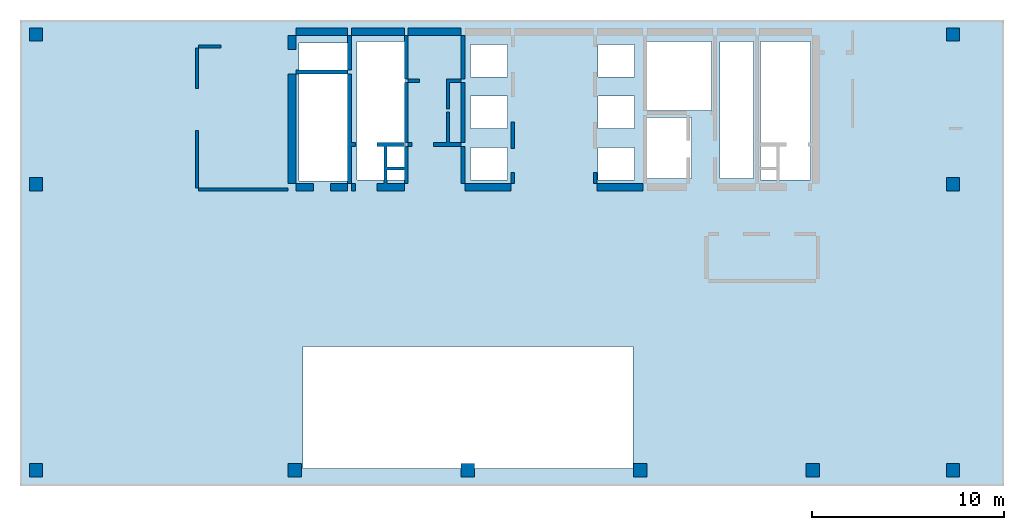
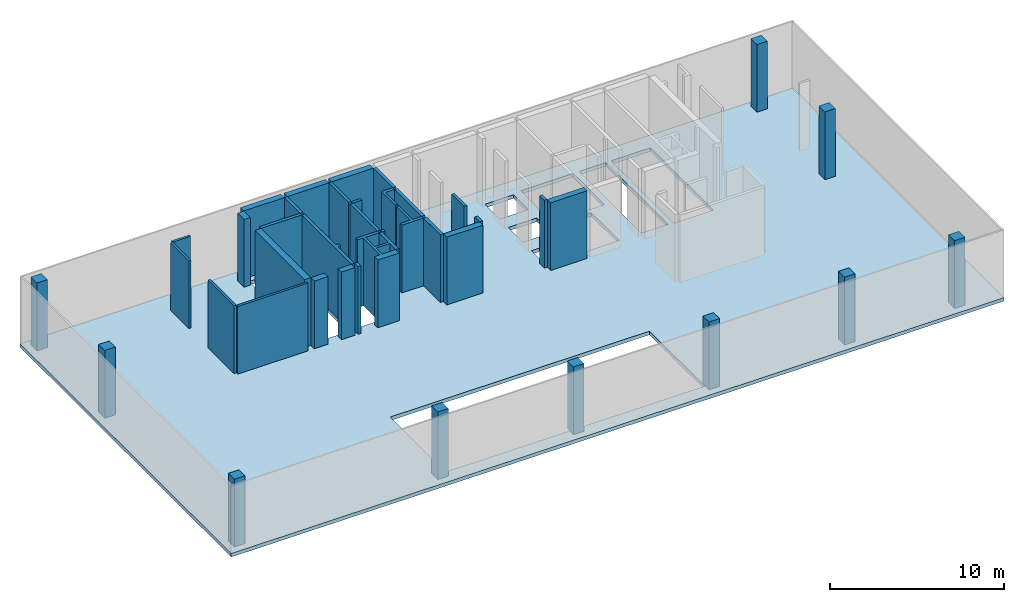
# One storey, part 1 of 3: 30 walls, 10 columns, 1 slab.
"""IFC4 building model written with IfcOpenShell, lengths in millimetres."""

from ifc_helpers import new_model, si_unit, frame, origin, place, context, project, spatial, triangles, element, save


model = new_model("IFC4")

# Units and contexts
model_context = context("Model", 3, precision=0.001, world=origin())
ifc_project = project(units=[si_unit("LENGTHUNIT", "METRE", prefix="MILLI"), si_unit("AREAUNIT", "SQUARE_METRE"), si_unit("VOLUMEUNIT", "CUBIC_METRE")], contexts=[model_context])

# Site, building, storey
site_placement = place(None, origin())
site = spatial("IfcSite", under=ifc_project, at=site_placement, Name="Site", CompositionType="ELEMENT")
building_placement = place(site_placement, origin())
building = spatial("IfcBuilding", under=site, at=building_placement, Name="INNOCEAN", CompositionType="ELEMENT")
storey_placement = place(building_placement, frame((0.0, 0.0, 6000.0)))
storey = spatial("IfcBuildingStorey", under=building, at=storey_placement, Name="F02", CompositionType="ELEMENT", Elevation=6000.0)

# Columns
column_1_placement = place(storey_placement, origin())
element("IfcColumn", 1, at=column_1_placement, inside=storey, Name="F02_Columns_F02_001", context=model_context, shape_type="Tessellation", body=[
    triangles([(40114.8, 2023.7, 0.0), (40114.8, 2722.3, 4750.0), (40114.8, 2722.3, 0.0), (40114.8, 2023.7, 4750.0), (40813.0, 2722.3, 4750.0), (40813.0, 2023.7, 0.0), (40813.0, 2722.3, 0.0), (40813.0, 2023.7, 4750.0)], [[1, 2, 3], [1, 4, 2], [5, 6, 7], [8, 6, 5], [6, 8, 1], [1, 8, 4], [5, 7, 3], [5, 3, 2], [3, 7, 1], [1, 7, 6], [5, 2, 4], [5, 4, 8]], closed=True),
])
column_2_placement = place(storey_placement, origin())
element("IfcColumn", 2, at=column_2_placement, inside=storey, Name="F02_Columns_F02_002", context=model_context, shape_type="Tessellation", body=[
    triangles([(13129.0, 2023.7, 0.0), (13129.0, 2722.3, 4750.0), (13129.0, 2722.3, 0.0), (13129.0, 2023.7, 4750.0), (13827.2, 2722.3, 4750.0), (13827.2, 2023.7, 0.0), (13827.2, 2722.3, 0.0), (13827.2, 2023.7, 4750.0)], [[1, 2, 3], [1, 4, 2], [5, 6, 7], [8, 6, 5], [6, 8, 1], [1, 8, 4], [5, 7, 3], [5, 3, 2], [3, 7, 1], [1, 7, 6], [5, 2, 4], [5, 4, 8]], closed=True),
])
column_3_placement = place(storey_placement, origin())
element("IfcColumn", 3, at=column_3_placement, inside=storey, Name="F02_Columns_F02_003", context=model_context, shape_type="Tessellation", body=[
    triangles([(-363.9, 16922.4, 0.0), (-363.9, 16922.4, 4750.0), (-363.9, 17620.9, 0.0), (-363.9, 17620.9, 4750.0), (334.3, 16922.4, 4750.0), (334.3, 16922.4, 0.0), (334.3, 17620.9, 0.0), (334.3, 17620.9, 4750.0)], [[1, 2, 3], [3, 2, 4], [5, 6, 7], [5, 7, 8], [6, 5, 1], [1, 5, 2], [8, 7, 3], [8, 3, 4], [3, 7, 1], [1, 7, 6], [8, 4, 2], [8, 2, 5]], closed=True),
])
column_4_placement = place(storey_placement, origin())
element("IfcColumn", 4, at=column_4_placement, inside=storey, Name="F02_Columns_F02_004", context=model_context, shape_type="Tessellation", body=[
    triangles([(-363.9, 2023.7, 0.0), (-363.9, 2722.3, 4750.0), (-363.9, 2722.3, 0.0), (-363.9, 2023.7, 4750.0), (334.3, 2722.3, 4750.0), (334.3, 2023.7, 0.0), (334.3, 2722.3, 0.0), (334.3, 2023.7, 4750.0)], [[1, 2, 3], [1, 4, 2], [5, 6, 7], [8, 6, 5], [6, 8, 1], [1, 8, 4], [5, 7, 3], [5, 3, 2], [3, 7, 1], [1, 7, 6], [5, 2, 4], [5, 4, 8]], closed=True),
])
column_5_placement = place(storey_placement, origin())
element("IfcColumn", 5, at=column_5_placement, inside=storey, Name="F02_Columns_F02_005", context=model_context, shape_type="Tessellation", body=[
    triangles([(-363.9, 24721.0, 0.0), (-363.9, 24721.0, 4750.0), (-363.9, 25419.5, 0.0), (-363.9, 25419.5, 4750.0), (334.3, 24721.0, 4750.0), (334.3, 24721.0, 0.0), (334.3, 25419.5, 0.0), (334.3, 25419.5, 4750.0)], [[1, 2, 3], [3, 2, 4], [5, 6, 7], [5, 7, 8], [6, 5, 1], [1, 5, 2], [8, 7, 3], [8, 3, 4], [3, 7, 1], [1, 7, 6], [8, 4, 2], [8, 2, 5]], closed=True),
])
column_6_placement = place(storey_placement, origin())
element("IfcColumn", 6, at=column_6_placement, inside=storey, Name="F02_Columns_F02_006", context=model_context, shape_type="Tessellation", body=[
    triangles([(31128.0, 2023.7, 0.0), (31128.0, 2722.3, 4750.0), (31128.0, 2722.3, 0.0), (31128.0, 2023.7, 4750.0), (31826.2, 2722.3, 4750.0), (31826.2, 2023.7, 0.0), (31826.2, 2722.3, 0.0), (31826.2, 2023.7, 4750.0)], [[1, 2, 3], [1, 4, 2], [5, 6, 7], [8, 6, 5], [6, 8, 1], [1, 8, 4], [5, 7, 3], [5, 3, 2], [3, 7, 1], [1, 7, 6], [5, 2, 4], [5, 4, 8]], closed=True),
])
column_7_placement = place(storey_placement, origin())
element("IfcColumn", 7, at=column_7_placement, inside=storey, Name="F02_Columns_F02_007", context=model_context, shape_type="Tessellation", body=[
    triangles([(22128.5, 2023.7, 0.0), (22128.5, 2722.3, 4750.0), (22128.5, 2722.3, 0.0), (22128.5, 2023.7, 4750.0), (22826.7, 2722.3, 4750.0), (22826.7, 2023.7, 0.0), (22826.7, 2722.3, 0.0), (22826.7, 2023.7, 4750.0)], [[1, 2, 3], [1, 4, 2], [5, 6, 7], [8, 6, 5], [6, 8, 1], [1, 8, 4], [5, 7, 3], [5, 3, 2], [3, 7, 1], [1, 7, 6], [5, 2, 4], [5, 4, 8]], closed=True),
])
column_8_placement = place(storey_placement, origin())
element("IfcColumn", 8, at=column_8_placement, inside=storey, Name="F02_Columns_F02_008", context=model_context, shape_type="Tessellation", body=[
    triangles([(47413.4, 24721.0, 0.0), (47413.4, 24721.0, 4750.0), (47413.4, 25419.5, 0.0), (47413.4, 25419.5, 4750.0), (48111.6, 24721.0, 4750.0), (48111.6, 24721.0, 0.0), (48111.6, 25419.5, 0.0), (48111.6, 25419.5, 4750.0)], [[1, 2, 3], [3, 2, 4], [5, 6, 7], [5, 7, 8], [6, 5, 1], [1, 5, 2], [8, 7, 3], [8, 3, 4], [1, 3, 6], [3, 7, 6], [4, 2, 5], [8, 4, 5]], closed=True),
])
column_9_placement = place(storey_placement, origin())
element("IfcColumn", 9, at=column_9_placement, inside=storey, Name="F02_Columns_F02_009", context=model_context, shape_type="Tessellation", body=[
    triangles([(47413.4, 16922.4, 0.0), (47413.4, 16922.4, 4750.0), (47413.4, 17620.9, 0.0), (47413.4, 17620.9, 4750.0), (48111.6, 16922.4, 4750.0), (48111.6, 16922.4, 0.0), (48111.6, 17620.9, 0.0), (48111.6, 17620.9, 4750.0)], [[1, 2, 3], [3, 2, 4], [5, 6, 7], [5, 7, 8], [6, 5, 1], [1, 5, 2], [8, 7, 3], [8, 3, 4], [1, 3, 6], [3, 7, 6], [4, 2, 5], [8, 4, 5]], closed=True),
])
column_10_placement = place(storey_placement, origin())
element("IfcColumn", 10, at=column_10_placement, inside=storey, Name="F02_Columns_F02_010", context=model_context, shape_type="Tessellation", body=[
    triangles([(47413.4, 2023.7, 0.0), (47413.4, 2722.3, 4750.0), (47413.4, 2722.3, 0.0), (47413.4, 2023.7, 4750.0), (48111.6, 2722.3, 4750.0), (48111.6, 2023.7, 0.0), (48111.6, 2722.3, 0.0), (48111.6, 2023.7, 4750.0)], [[1, 2, 3], [1, 4, 2], [5, 6, 7], [8, 6, 5], [6, 8, 1], [1, 8, 4], [5, 7, 3], [5, 3, 2], [3, 7, 1], [1, 7, 6], [5, 2, 4], [5, 4, 8]], closed=True),
])

# Slab
slab_placement = place(storey_placement, origin())
element("IfcSlab", 11, at=slab_placement, inside=storey, Name="F02_Slab_F02_001", context=model_context, shape_type="Tessellation", body=[
    triangles([(-846.215139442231, 25825.974025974, 0.0), (50420.3187250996, 25825.974025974, -250.0), (-846.215139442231, 25825.974025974, -250.0), (50420.3187250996, 25825.974025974, 0.0), (-846.215139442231, 1552.38095238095, 0.0), (-846.215139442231, 1552.38095238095, -250.0), (50420.3187250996, 1552.38095238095, 0.0), (50420.3187250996, 1552.38095238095, -250.0), (31098.406374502, 8820.34632034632, 0.0), (13892.03187251, 8820.34632034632, 0.0), (13892.03187251, 8820.34632034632, -250.0), (31098.406374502, 8820.34632034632, -250.0), (31098.406374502, 2469.69696969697, 0.0), (31098.406374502, 2469.69696969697, -250.0), (13892.03187251, 2469.69696969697, 0.0), (13892.03187251, 2469.69696969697, -250.0), (31168.9243027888, 19193.0735930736, 0.0), (29264.9402390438, 19193.0735930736, 0.0), (29264.9402390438, 19193.0735930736, -250.0), (31168.9243027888, 19193.0735930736, -250.0), (29264.9402390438, 17499.5670995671, 0.0), (29264.9402390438, 17499.5670995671, -250.0), (31168.9243027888, 17499.5670995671, 0.0), (31168.9243027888, 17499.5670995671, -250.0), (40336.2549800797, 24696.9696969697, -250.0), (37727.0916334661, 24696.9696969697, 0.0), (37727.0916334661, 24696.9696969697, -250.0), (40336.2549800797, 24696.9696969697, 0.0), (37727.0916334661, 17499.5670995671, 0.0), (37727.0916334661, 17499.5670995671, -250.0), (40336.2549800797, 17499.5670995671, 0.0), (40336.2549800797, 17499.5670995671, -250.0), (37374.5019920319, 24696.9696969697, 0.0), (35611.5537848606, 24696.9696969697, 0.0), (35611.5537848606, 24696.9696969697, -250.0), (37374.5019920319, 24696.9696969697, -250.0), (35611.5537848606, 17570.1298701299, 0.0), (35611.5537848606, 17570.1298701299, -250.0), (37374.5019920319, 17570.1298701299, 0.0), (37374.5019920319, 17570.1298701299, -250.0), (34130.6772908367, 20745.4545454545, -250.0), (31733.0677290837, 20745.4545454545, 0.0), (31733.0677290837, 20745.4545454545, -250.0), (34130.6772908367, 20745.4545454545, 0.0), (31733.0677290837, 17570.1298701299, 0.0), (31733.0677290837, 17570.1298701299, -250.0), (34130.6772908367, 17570.1298701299, 0.0), (34130.6772908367, 17570.1298701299, -250.0), (31168.9243027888, 21874.4588744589, 0.0), (29264.9402390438, 21874.4588744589, 0.0), (29264.9402390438, 21874.4588744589, -250.0), (31168.9243027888, 21874.4588744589, -250.0), (29264.9402390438, 20180.9523809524, 0.0), (29264.9402390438, 20180.9523809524, -250.0), (31168.9243027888, 20180.9523809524, 0.0), (31168.9243027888, 20180.9523809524, -250.0), (35188.4462151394, 24696.9696969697, 0.0), (31733.0677290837, 24696.9696969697, 0.0), (31733.0677290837, 24696.9696969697, -250.0), (35188.4462151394, 24696.9696969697, -250.0), (31733.0677290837, 21098.2683982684, 0.0), (31733.0677290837, 21098.2683982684, -250.0), (35188.4462151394, 21098.2683982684, 0.0), (35188.4462151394, 21098.2683982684, -250.0), (31168.9243027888, 24555.8441558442, 0.0), (29264.9402390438, 24555.8441558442, 0.0), (29264.9402390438, 24555.8441558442, -250.0), (31168.9243027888, 24555.8441558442, -250.0), (29264.9402390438, 22862.3376623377, 0.0), (29264.9402390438, 22862.3376623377, -250.0), (31168.9243027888, 22862.3376623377, 0.0), (31168.9243027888, 22862.3376623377, -250.0), (24540.2390438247, 19193.0735930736, -250.0), (22636.2549800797, 19193.0735930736, 0.0), (22636.2549800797, 19193.0735930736, -250.0), (24540.2390438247, 19193.0735930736, 0.0), (22636.2549800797, 17499.5670995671, 0.0), (22636.2549800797, 17499.5670995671, -250.0), (24540.2390438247, 17499.5670995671, 0.0), (24540.2390438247, 17499.5670995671, -250.0), (24540.2390438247, 21874.4588744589, -250.0), (22636.2549800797, 21874.4588744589, 0.0), (22636.2549800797, 21874.4588744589, -250.0), (24540.2390438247, 21874.4588744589, 0.0), (22636.2549800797, 20180.9523809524, 0.0), (22636.2549800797, 20180.9523809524, -250.0), (24540.2390438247, 20180.9523809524, 0.0), (24540.2390438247, 20180.9523809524, -250.0), (24540.2390438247, 24555.8441558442, -250.0), (22636.2549800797, 24555.8441558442, 0.0), (22636.2549800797, 24555.8441558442, -250.0), (24540.2390438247, 24555.8441558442, 0.0), (22636.2549800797, 22862.3376623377, 0.0), (22636.2549800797, 22862.3376623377, -250.0), (24540.2390438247, 22862.3376623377, 0.0), (24540.2390438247, 22862.3376623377, -250.0), (19251.3944223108, 24696.9696969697, 0.0), (16712.7490039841, 24696.9696969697, 0.0), (16712.7490039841, 24696.9696969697, -250.0), (19251.3944223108, 24696.9696969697, -250.0), (16712.7490039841, 17499.5670995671, 0.0), (16712.7490039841, 17499.5670995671, -250.0), (19251.3944223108, 17499.5670995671, 0.0), (19251.3944223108, 17499.5670995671, -250.0), (16219.1235059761, 24626.4069264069, 0.0), (13680.4780876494, 24626.4069264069, 0.0), (13680.4780876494, 24626.4069264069, -250.0), (16219.1235059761, 24626.4069264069, -250.0), (13680.4780876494, 17429.0043290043, 0.0), (13680.4780876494, 17429.0043290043, -250.0), (16219.1235059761, 17429.0043290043, 0.0), (16219.1235059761, 17429.0043290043, -250.0)], [[1, 2, 3], [1, 4, 2], [5, 1, 6], [6, 1, 3], [4, 7, 2], [2, 7, 8], [7, 6, 8], [7, 5, 6], [9, 10, 11], [9, 11, 12], [13, 9, 12], [13, 12, 14], [15, 13, 14], [15, 14, 16], [10, 15, 16], [10, 16, 11], [17, 18, 19], [17, 19, 20], [18, 21, 22], [18, 22, 19], [23, 17, 20], [23, 20, 24], [21, 23, 24], [21, 24, 22], [25, 26, 27], [28, 26, 25], [26, 29, 30], [26, 30, 27], [31, 28, 25], [31, 25, 32], [30, 31, 32], [29, 31, 30], [33, 34, 35], [33, 35, 36], [34, 37, 38], [34, 38, 35], [39, 33, 36], [39, 36, 40], [37, 39, 40], [37, 40, 38], [41, 42, 43], [44, 42, 41], [42, 45, 46], [42, 46, 43], [47, 44, 41], [47, 41, 48], [46, 47, 48], [45, 47, 46], [49, 50, 51], [49, 51, 52], [50, 53, 54], [50, 54, 51], [55, 49, 52], [55, 52, 56], [53, 55, 56], [53, 56, 54], [57, 58, 59], [57, 59, 60], [58, 61, 62], [58, 62, 59], [63, 57, 60], [63, 60, 64], [61, 63, 64], [61, 64, 62], [65, 66, 67], [65, 67, 68], [66, 69, 70], [66, 70, 67], [71, 65, 68], [71, 68, 72], [69, 71, 72], [69, 72, 70], [73, 74, 75], [76, 74, 73], [74, 77, 78], [74, 78, 75], [79, 76, 73], [79, 73, 80], [78, 79, 80], [77, 79, 78], [81, 82, 83], [84, 82, 81], [82, 85, 86], [82, 86, 83], [87, 84, 81], [87, 81, 88], [86, 87, 88], [85, 87, 86], [89, 90, 91], [92, 90, 89], [90, 93, 94], [90, 94, 91], [95, 92, 89], [95, 89, 96], [94, 95, 96], [93, 95, 94], [97, 98, 99], [97, 99, 100], [98, 101, 102], [98, 102, 99], [103, 97, 100], [103, 100, 104], [101, 103, 104], [101, 104, 102], [105, 106, 107], [105, 107, 108], [106, 109, 110], [106, 110, 107], [111, 105, 108], [111, 108, 112], [109, 111, 112], [109, 112, 110], [4, 31, 7], [7, 9, 13], [31, 9, 7], [31, 29, 9], [39, 37, 29], [29, 37, 9], [37, 47, 9], [4, 28, 31], [47, 45, 9], [45, 23, 9], [37, 44, 47], [63, 44, 37], [45, 17, 23], [23, 21, 9], [17, 42, 55], [42, 61, 55], [44, 61, 42], [34, 57, 63], [55, 18, 17], [61, 49, 55], [55, 53, 18], [61, 71, 49], [21, 79, 9], [58, 65, 71], [71, 69, 49], [49, 69, 50], [18, 76, 21], [53, 76, 18], [21, 76, 79], [79, 77, 9], [77, 10, 9], [58, 66, 65], [50, 87, 53], [53, 87, 76], [50, 84, 87], [76, 85, 74], [87, 85, 76], [77, 103, 10], [85, 103, 74], [74, 103, 77], [69, 95, 50], [50, 95, 84], [85, 82, 103], [95, 82, 84], [66, 92, 69], [69, 92, 95], [95, 93, 82], [103, 101, 10], [101, 111, 10], [10, 5, 15], [111, 109, 10], [10, 109, 5], [90, 97, 93], [82, 97, 103], [93, 97, 82], [98, 105, 101], [101, 105, 111], [98, 106, 105], [106, 1, 109], [109, 1, 5], [4, 1, 28], [28, 1, 26], [26, 1, 33], [33, 1, 34], [34, 1, 57], [57, 1, 58], [58, 1, 66], [66, 1, 92], [92, 1, 90], [90, 1, 97], [97, 1, 98], [98, 1, 106], [5, 7, 15], [15, 7, 13], [37, 34, 63], [33, 39, 26], [26, 39, 29], [45, 42, 17], [61, 58, 71], [63, 61, 44], [32, 2, 8], [12, 8, 14], [12, 32, 8], [30, 32, 12], [38, 40, 30], [38, 30, 12], [48, 38, 12], [25, 2, 32], [46, 48, 12], [24, 46, 12], [41, 38, 48], [41, 64, 38], [20, 46, 24], [22, 24, 12], [43, 20, 56], [62, 43, 56], [62, 41, 43], [60, 35, 64], [19, 56, 20], [52, 62, 56], [54, 56, 19], [72, 62, 52], [80, 22, 12], [68, 59, 72], [70, 72, 52], [70, 52, 51], [73, 19, 22], [73, 54, 19], [73, 22, 80], [78, 80, 12], [11, 78, 12], [67, 59, 68], [88, 51, 54], [88, 54, 73], [81, 51, 88], [86, 73, 75], [86, 88, 73], [104, 78, 11], [104, 86, 75], [104, 75, 78], [96, 70, 51], [96, 51, 81], [83, 86, 104], [83, 96, 81], [89, 67, 70], [89, 70, 96], [94, 96, 83], [102, 104, 11], [112, 102, 11], [6, 11, 16], [110, 112, 11], [110, 11, 6], [100, 91, 94], [100, 83, 104], [100, 94, 83], [108, 99, 102], [108, 102, 112], [107, 99, 108], [3, 107, 110], [3, 110, 6], [3, 2, 25], [3, 25, 27], [3, 27, 36], [3, 36, 35], [3, 35, 60], [3, 60, 59], [3, 59, 67], [3, 67, 89], [3, 89, 91], [3, 91, 100], [3, 100, 99], [3, 99, 107], [8, 6, 16], [8, 16, 14], [35, 38, 64], [40, 36, 27], [40, 27, 30], [43, 46, 20], [59, 62, 72], [62, 64, 41]], closed=True),
])

# Walls
wall_1_placement = place(storey_placement, origin())
element("IfcWall", 12, at=wall_1_placement, inside=storey, Name="F02_Walls_F02_001", context=model_context, shape_type="Tessellation", body=[
    triangles([(13129.0, 17074.8, 0.0), (8457.9, 17074.8, 0.0), (8457.9, 17074.8, 4750.0), (13129.0, 17074.8, 4750.0), (13129.0, 16922.4, 4750.0), (13129.0, 16922.4, 0.0), (8457.9, 16922.4, 0.0), (8457.9, 16922.4, 4750.0)], [[1, 2, 3], [1, 3, 4], [1, 4, 5], [6, 1, 5], [7, 6, 5], [7, 5, 8], [7, 8, 3], [2, 7, 3], [2, 1, 6], [2, 6, 7], [4, 3, 5], [5, 3, 8]], closed=True),
])
wall_2_placement = place(storey_placement, origin())
element("IfcWall", 13, at=wall_2_placement, inside=storey, Name="F02_Walls_F02_002", context=model_context, shape_type="Tessellation", body=[
    triangles([(14436.4, 16922.4, 0.0), (14436.4, 17316.1, 0.0), (14436.4, 17316.1, 4750.0), (14436.4, 16922.4, 4750.0), (13535.2, 16922.4, 0.0), (13535.2, 16922.4, 4750.0), (13535.2, 17316.1, 0.0), (13535.2, 17316.1, 4750.0)], [[1, 2, 3], [1, 3, 4], [5, 1, 4], [5, 4, 6], [7, 5, 6], [7, 6, 8], [2, 7, 8], [2, 8, 3], [7, 2, 1], [7, 1, 5], [3, 8, 4], [4, 8, 6]], closed=True),
])
wall_3_placement = place(storey_placement, origin())
element("IfcWall", 14, at=wall_3_placement, inside=storey, Name="F02_Walls_F02_003", context=model_context, shape_type="Tessellation", body=[
    triangles([(16226.2, 16922.4, 0.0), (16226.2, 17316.1, 0.0), (16226.2, 17316.1, 4750.0), (16226.2, 16922.4, 4750.0), (15337.6, 16922.4, 0.0), (15337.6, 16922.4, 4750.0), (15337.6, 17316.1, 0.0), (15337.6, 17316.1, 4750.0)], [[1, 2, 3], [1, 3, 4], [5, 1, 4], [5, 4, 6], [7, 5, 6], [7, 6, 8], [2, 7, 8], [2, 8, 3], [7, 2, 1], [7, 1, 5], [3, 8, 4], [4, 8, 6]], closed=True),
])
wall_4_placement = place(storey_placement, origin())
element("IfcWall", 15, at=wall_4_placement, inside=storey, Name="F02_Walls_F02_004", context=model_context, shape_type="Tessellation", body=[
    triangles([(16632.4, 17316.1, 0.0), (16429.3, 17316.1, 0.0), (16429.3, 17316.1, 4750.0), (16632.4, 17316.1, 4750.0), (16632.4, 16922.4, 0.0), (16632.4, 16922.4, 4750.0), (16429.3, 16922.4, 0.0), (16429.3, 16922.4, 4750.0)], [[1, 2, 3], [1, 3, 4], [5, 1, 4], [5, 4, 6], [7, 5, 6], [7, 6, 8], [2, 7, 8], [2, 8, 3], [2, 1, 5], [2, 5, 7], [4, 3, 6], [6, 3, 8]], closed=True),
])
wall_5_placement = place(storey_placement, origin())
element("IfcWall", 16, at=wall_5_placement, inside=storey, Name="F02_Walls_F02_005", context=model_context, shape_type="Tessellation", body=[
    triangles([(17749.4, 17316.1, 0.0), (17749.4, 16922.4, 0.0), (17749.4, 16922.4, 4750.0), (17749.4, 17316.1, 4750.0), (19183.7, 16922.4, 0.0), (19183.7, 16922.4, 4750.0), (19183.7, 17316.1, 0.0), (19183.7, 17316.1, 4750.0), (19374.1, 17316.1, 0.0), (19374.1, 17316.1, 4750.0), (19374.1, 19246.7, 0.0), (19374.1, 19246.7, 4750.0), (19183.7, 19246.7, 0.0), (19183.7, 19246.7, 4750.0), (19183.7, 19449.9, 0.0), (19183.7, 19449.9, 4750.0), (17749.4, 19449.9, 0.0), (17749.4, 19449.9, 4750.0), (17749.4, 19246.7, 0.0), (17749.4, 19246.7, 4750.0), (18130.2, 19246.7, 0.0), (18130.2, 19246.7, 4750.0), (18130.2, 19245.0, 0.0), (18130.2, 19245.0, 4750.0), (18130.0, 19245.0, 0.0), (18130.0, 19245.0, 4750.0), (18130.0, 17316.1, 0.0), (18130.0, 17316.1, 4750.0), (18282.5, 17316.1, 0.0), (18282.5, 17316.1, 4750.0), (18282.5, 18014.7, 0.0), (18282.5, 18014.7, 4750.0), (19183.7, 18014.7, 0.0), (19183.7, 18014.7, 4750.0), (19183.7, 18167.1, 0.0), (19183.7, 18167.1, 4750.0), (18282.5, 18167.1, 0.0), (18282.5, 18167.1, 4750.0), (18282.5, 19246.7, 0.0), (18282.5, 19246.7, 4750.0)], [[1, 2, 3], [1, 3, 4], [2, 5, 6], [2, 6, 3], [5, 7, 8], [5, 8, 6], [9, 10, 8], [7, 9, 8], [9, 11, 12], [9, 12, 10], [13, 14, 12], [11, 13, 12], [15, 16, 14], [13, 15, 14], [15, 17, 18], [15, 18, 16], [19, 20, 18], [17, 19, 18], [21, 22, 20], [19, 21, 20], [21, 23, 24], [21, 24, 22], [23, 25, 26], [23, 26, 24], [27, 28, 26], [25, 27, 26], [1, 4, 28], [27, 1, 28], [29, 30, 8], [7, 29, 8], [29, 31, 32], [29, 32, 30], [33, 34, 32], [31, 33, 32], [33, 7, 8], [33, 8, 34], [13, 35, 36], [13, 36, 14], [37, 38, 36], [35, 37, 36], [37, 39, 40], [37, 40, 38], [13, 14, 40], [39, 13, 40], [33, 9, 7], [35, 9, 33], [29, 7, 5], [2, 29, 5], [27, 29, 2], [1, 27, 2], [31, 35, 33], [31, 29, 27], [11, 9, 35], [37, 35, 31], [13, 11, 35], [39, 15, 13], [23, 39, 37], [25, 23, 37], [21, 39, 23], [17, 21, 19], [17, 15, 39], [17, 39, 21], [27, 25, 37], [27, 37, 31], [10, 34, 8], [10, 36, 34], [8, 30, 6], [30, 3, 6], [30, 28, 3], [28, 4, 3], [36, 32, 34], [30, 32, 28], [10, 12, 36], [36, 38, 32], [12, 14, 36], [16, 40, 14], [40, 24, 38], [24, 26, 38], [40, 22, 24], [22, 18, 20], [16, 18, 40], [40, 18, 22], [26, 28, 38], [38, 28, 32]], closed=True),
])
wall_6_placement = place(storey_placement, origin())
element("IfcWall", 17, at=wall_6_placement, inside=storey, Name="F02_Walls_F02_006", context=model_context, shape_type="Tessellation", body=[
    triangles([(16226.2, 19449.9, 0.0), (16226.2, 19449.9, 4750.0), (16226.2, 23019.0, 4750.0), (16226.2, 23019.0, 0.0), (16429.3, 23019.0, 0.0), (16429.3, 23019.0, 4750.0), (16429.3, 19449.9, 4750.0), (16429.3, 19449.9, 0.0), (16632.4, 19449.9, 0.0), (16632.4, 19449.9, 4750.0), (16632.4, 19246.7, 4750.0), (16632.4, 19246.7, 0.0), (16429.3, 19246.7, 0.0), (16429.3, 19246.7, 4750.0), (16429.3, 17316.1, 0.0), (16429.3, 17316.1, 4750.0), (16226.2, 17316.1, 0.0), (16226.2, 17316.1, 4750.0), (16226.2, 19246.7, 0.0), (16226.2, 19246.7, 4750.0)], [[1, 2, 3], [4, 1, 3], [5, 4, 3], [5, 3, 6], [5, 6, 7], [8, 5, 7], [9, 8, 7], [9, 7, 10], [9, 10, 11], [12, 9, 11], [13, 12, 11], [13, 11, 14], [15, 13, 14], [15, 14, 16], [17, 15, 16], [17, 16, 18], [19, 17, 18], [19, 18, 20], [19, 20, 2], [1, 19, 2], [19, 13, 15], [19, 15, 17], [8, 9, 12], [8, 12, 13], [1, 8, 13], [1, 13, 19], [5, 8, 1], [4, 5, 1], [14, 20, 16], [16, 20, 18], [10, 7, 11], [11, 7, 14], [7, 2, 14], [14, 2, 20], [7, 6, 2], [6, 3, 2]], closed=True),
])
wall_7_placement = place(storey_placement, origin())
element("IfcWall", 18, at=wall_7_placement, inside=storey, Name="F02_Walls_F02_007", context=model_context, shape_type="Tessellation", body=[
    triangles([(8457.9, 17074.8, 0.0), (8457.9, 20072.3, 0.0), (8457.9, 20072.3, 4750.0), (8457.9, 17074.8, 4750.0), (8305.6, 17074.8, 0.0), (8305.6, 17074.8, 4750.0), (8305.6, 20072.3, 0.0), (8305.6, 20072.3, 4750.0)], [[1, 2, 3], [1, 3, 4], [5, 1, 4], [5, 4, 6], [7, 5, 6], [7, 6, 8], [2, 7, 8], [2, 8, 3], [7, 2, 1], [7, 1, 5], [3, 8, 4], [4, 8, 6]], closed=True),
])
wall_8_placement = place(storey_placement, origin())
element("IfcWall", 19, at=wall_8_placement, inside=storey, Name="F02_Walls_F02_008", context=model_context, shape_type="Tessellation", body=[
    triangles([(13129.0, 23019.0, 0.0), (13129.0, 17316.1, 0.0), (13129.0, 17316.1, 4750.0), (13129.0, 23019.0, 4750.0), (13535.2, 23019.0, 0.0), (13535.2, 23019.0, 4750.0), (13535.2, 17316.1, 0.0), (13535.2, 17316.1, 4750.0)], [[1, 2, 3], [1, 3, 4], [5, 1, 4], [5, 4, 6], [7, 5, 6], [7, 6, 8], [2, 7, 8], [2, 8, 3], [1, 5, 7], [1, 7, 2], [6, 4, 8], [8, 4, 3]], closed=True),
])
wall_9_placement = place(storey_placement, origin())
element("IfcWall", 20, at=wall_9_placement, inside=storey, Name="F02_Walls_F02_009", context=model_context, shape_type="Tessellation", body=[
    triangles([(16226.2, 23222.2, 0.0), (16226.2, 23222.2, 4750.0), (16226.2, 23019.0, 4750.0), (16226.2, 23019.0, 0.0), (13535.2, 23019.0, 0.0), (13535.2, 23019.0, 4750.0), (13535.2, 23222.2, 4750.0), (13535.2, 23222.2, 0.0)], [[1, 2, 3], [4, 1, 3], [5, 4, 3], [5, 3, 6], [5, 6, 7], [8, 5, 7], [1, 8, 7], [1, 7, 2], [8, 1, 4], [8, 4, 5], [2, 7, 3], [3, 7, 6]], closed=True),
])
wall_10_placement = place(storey_placement, origin())
element("IfcWall", 21, at=wall_10_placement, inside=storey, Name="F02_Walls_F02_010", context=model_context, shape_type="Tessellation", body=[
    triangles([(8457.9, 24365.3, 0.0), (8305.6, 24365.3, 0.0), (8305.6, 24365.3, 4750.0), (8457.9, 24365.3, 4750.0), (8457.9, 22269.6, 4750.0), (8457.9, 22269.6, 0.0), (8305.6, 22269.6, 0.0), (8305.6, 22269.6, 4750.0)], [[1, 2, 3], [1, 3, 4], [1, 4, 5], [6, 1, 5], [7, 6, 5], [7, 5, 8], [7, 8, 3], [2, 7, 3], [2, 1, 6], [2, 6, 7], [4, 3, 5], [5, 3, 8]], closed=True),
])
wall_11_placement = place(storey_placement, origin())
element("IfcWall", 22, at=wall_11_placement, inside=storey, Name="F02_Walls_F02_011", context=model_context, shape_type="Tessellation", body=[
    triangles([(19374.1, 22765.0, 0.0), (19374.1, 25025.8, 0.0), (19374.1, 25025.8, 4750.0), (19374.1, 22765.0, 4750.0), (19183.7, 22765.0, 4750.0), (19183.7, 22765.0, 0.0), (19183.7, 25025.8, 0.0), (19183.7, 25025.8, 4750.0)], [[1, 2, 3], [1, 3, 4], [1, 4, 5], [6, 1, 5], [7, 6, 5], [7, 5, 8], [7, 8, 3], [2, 7, 3], [7, 2, 1], [7, 1, 6], [3, 8, 4], [4, 8, 5]], closed=True),
])
wall_12_placement = place(storey_placement, origin())
element("IfcWall", 23, at=wall_12_placement, inside=storey, Name="F02_Walls_F02_012", context=model_context, shape_type="Tessellation", body=[
    triangles([(16429.3, 23222.2, 0.0), (16429.3, 25025.8, 0.0), (16429.3, 25025.8, 4750.0), (16429.3, 23222.2, 4750.0), (16226.2, 23222.2, 0.0), (16226.2, 23222.2, 4750.0), (16226.2, 25025.8, 0.0), (16226.2, 25025.8, 4750.0)], [[1, 2, 3], [1, 3, 4], [5, 1, 4], [5, 4, 6], [7, 5, 6], [7, 6, 8], [2, 7, 8], [2, 8, 3], [7, 2, 1], [7, 1, 5], [3, 8, 4], [4, 8, 6]], closed=True),
])
wall_13_placement = place(storey_placement, origin())
element("IfcWall", 24, at=wall_13_placement, inside=storey, Name="F02_Walls_F02_013", context=model_context, shape_type="Tessellation", body=[
    triangles([(9638.4, 24365.3, 0.0), (9638.4, 24517.7, 0.0), (9638.4, 24517.7, 4750.0), (9638.4, 24365.3, 4750.0), (8457.9, 24365.3, 4750.0), (8457.9, 24365.3, 0.0), (8457.9, 24517.7, 0.0), (8457.9, 24517.7, 4750.0)], [[1, 2, 3], [1, 3, 4], [1, 4, 5], [6, 1, 5], [7, 6, 5], [7, 5, 8], [7, 8, 3], [2, 7, 3], [7, 2, 1], [7, 1, 6], [3, 8, 4], [4, 8, 5]], closed=True),
])
wall_14_placement = place(storey_placement, origin())
element("IfcWall", 25, at=wall_14_placement, inside=storey, Name="F02_Walls_F02_014", context=model_context, shape_type="Tessellation", body=[
    triangles([(13535.2, 24276.4, 0.0), (13535.2, 25025.8, 0.0), (13535.2, 25025.8, 4750.0), (13535.2, 24276.4, 4750.0), (13129.0, 24276.4, 0.0), (13129.0, 24276.4, 4750.0), (13129.0, 25025.8, 0.0), (13129.0, 25025.8, 4750.0)], [[1, 2, 3], [1, 3, 4], [5, 1, 4], [5, 4, 6], [7, 5, 6], [7, 6, 8], [2, 7, 8], [2, 8, 3], [2, 1, 5], [7, 2, 5], [4, 3, 6], [3, 8, 6]], closed=True),
])
wall_15_placement = place(storey_placement, origin())
element("IfcWall", 26, at=wall_15_placement, inside=storey, Name="F02_Walls_F02_015", context=model_context, shape_type="Tessellation", body=[
    triangles([(16226.2, 25025.8, 0.0), (16226.2, 25419.5, 0.0), (16226.2, 25419.5, 4750.0), (16226.2, 25025.8, 4750.0), (13535.2, 25025.8, 0.0), (13535.2, 25025.8, 4750.0), (13535.2, 25419.5, 0.0), (13535.2, 25419.5, 4750.0)], [[1, 2, 3], [1, 3, 4], [5, 1, 4], [5, 4, 6], [7, 5, 6], [7, 6, 8], [2, 7, 8], [2, 8, 3], [5, 2, 1], [7, 2, 5], [3, 6, 4], [3, 8, 6]], closed=True),
])
wall_16_placement = place(storey_placement, origin())
element("IfcWall", 27, at=wall_16_placement, inside=storey, Name="F02_Walls_F02_016", context=model_context, shape_type="Tessellation", body=[
    triangles([(19183.7, 25025.8, 0.0), (19183.7, 25419.5, 0.0), (19183.7, 25419.5, 4750.0), (19183.7, 25025.8, 4750.0), (16429.3, 25025.8, 4750.0), (16429.3, 25025.8, 0.0), (16429.3, 25419.5, 0.0), (16429.3, 25419.5, 4750.0)], [[1, 2, 3], [1, 3, 4], [1, 4, 5], [6, 1, 5], [7, 6, 5], [7, 5, 8], [7, 8, 3], [2, 7, 3], [7, 2, 1], [7, 1, 6], [3, 8, 4], [4, 8, 5]], closed=True),
])
wall_17_placement = place(storey_placement, origin())
element("IfcWall", 28, at=wall_17_placement, inside=storey, Name="F02_Walls_F02_017", context=model_context, shape_type="Tessellation", body=[
    triangles([(22331.6, 17316.1, 0.0), (22331.6, 16922.4, 0.0), (22331.6, 16922.4, 4750.0), (22331.6, 17316.1, 4750.0), (24730.6, 17316.1, 0.0), (24730.6, 17316.1, 4750.0), (24730.6, 16922.4, 0.0), (24730.6, 16922.4, 4750.0)], [[1, 2, 3], [1, 3, 4], [5, 1, 4], [5, 4, 6], [7, 5, 6], [7, 6, 8], [2, 7, 8], [2, 8, 3], [1, 5, 7], [1, 7, 2], [6, 4, 8], [8, 4, 3]], closed=True),
])
wall_18_placement = place(storey_placement, origin())
element("IfcWall", 29, at=wall_18_placement, inside=storey, Name="F02_Walls_F02_018", context=model_context, shape_type="Tessellation", body=[
    triangles([(24921.0, 17875.0, 0.0), (24921.0, 17875.0, 4750.0), (24921.0, 17316.1, 4750.0), (24921.0, 17316.1, 0.0), (24730.6, 17316.1, 0.0), (24730.6, 17316.1, 4750.0), (24730.6, 17875.0, 4750.0), (24730.6, 17875.0, 0.0)], [[1, 2, 3], [4, 1, 3], [5, 4, 3], [5, 3, 6], [5, 6, 7], [8, 5, 7], [1, 8, 7], [1, 7, 2], [8, 1, 4], [8, 4, 5], [2, 7, 3], [3, 7, 6]], closed=True),
])
wall_19_placement = place(storey_placement, origin())
element("IfcWall", 30, at=wall_19_placement, inside=storey, Name="F02_Walls_F02_019", context=model_context, shape_type="Tessellation", body=[
    triangles([(29224.0, 17875.0, 0.0), (29224.0, 17875.0, 4750.0), (29224.0, 17316.1, 4750.0), (29224.0, 17316.1, 0.0), (29020.9, 17316.1, 0.0), (29020.9, 17316.1, 4750.0), (29020.9, 17875.0, 4750.0), (29020.9, 17875.0, 0.0)], [[1, 2, 3], [4, 1, 3], [5, 4, 3], [5, 3, 6], [5, 6, 7], [8, 5, 7], [1, 8, 7], [1, 7, 2], [8, 1, 4], [8, 4, 5], [2, 7, 3], [3, 7, 6]], closed=True),
])
wall_20_placement = place(storey_placement, origin())
element("IfcWall", 31, at=wall_20_placement, inside=storey, Name="F02_Walls_F02_020", context=model_context, shape_type="Tessellation", body=[
    triangles([(22331.6, 19246.7, 0.0), (22128.5, 19246.7, 0.0), (22128.5, 19246.7, 4750.0), (22331.6, 19246.7, 4750.0), (22331.6, 17316.1, 0.0), (22331.6, 17316.1, 4750.0), (22128.5, 17316.1, 0.0), (22128.5, 17316.1, 4750.0)], [[1, 2, 3], [1, 3, 4], [5, 1, 4], [5, 4, 6], [7, 5, 6], [7, 6, 8], [2, 7, 8], [2, 8, 3], [2, 1, 5], [2, 5, 7], [4, 3, 6], [6, 3, 8]], closed=True),
])
wall_21_placement = place(storey_placement, origin())
element("IfcWall", 32, at=wall_21_placement, inside=storey, Name="F02_Walls_F02_021", context=model_context, shape_type="Tessellation", body=[
    triangles([(19577.2, 19449.9, 0.0), (19374.1, 19449.9, 0.0), (19374.1, 19449.9, 4750.0), (19577.2, 19449.9, 4750.0), (19577.2, 19246.7, 4750.0), (19577.2, 19246.7, 0.0), (19374.1, 19246.7, 0.0), (19374.1, 19246.7, 4750.0)], [[1, 2, 3], [1, 3, 4], [1, 4, 5], [6, 1, 5], [7, 6, 5], [7, 5, 8], [7, 8, 3], [2, 7, 3], [2, 1, 6], [2, 6, 7], [4, 3, 5], [5, 3, 8]], closed=True),
])
wall_22_placement = place(storey_placement, origin())
element("IfcWall", 33, at=wall_22_placement, inside=storey, Name="F02_Walls_F02_022", context=model_context, shape_type="Tessellation", body=[
    triangles([(22128.5, 19449.9, 0.0), (21519.3, 19449.9, 0.0), (21519.3, 19449.9, 4750.0), (22128.5, 19449.9, 4750.0), (22128.5, 19246.7, 4750.0), (22128.5, 19246.7, 0.0), (20694.2, 19246.7, 0.0), (20694.2, 19246.7, 4750.0), (20694.2, 19449.9, 4750.0), (20694.2, 19449.9, 0.0), (21366.9, 19449.9, 0.0), (21366.9, 19449.9, 4750.0), (21366.9, 21024.9, 4750.0), (21366.9, 21024.9, 0.0), (21519.3, 21024.9, 4750.0), (21519.3, 21024.9, 0.0)], [[1, 2, 3], [1, 3, 4], [1, 4, 5], [6, 1, 5], [7, 6, 5], [7, 5, 8], [7, 8, 9], [10, 7, 9], [11, 10, 9], [11, 9, 12], [11, 12, 13], [14, 11, 13], [14, 13, 15], [16, 14, 15], [16, 15, 3], [2, 16, 3], [2, 1, 6], [11, 2, 6], [7, 11, 6], [10, 11, 7], [14, 16, 2], [14, 2, 11], [4, 3, 5], [3, 12, 5], [12, 8, 5], [12, 9, 8], [15, 13, 3], [3, 13, 12]], closed=True),
])
wall_23_placement = place(storey_placement, origin())
element("IfcWall", 34, at=wall_23_placement, inside=storey, Name="F02_Walls_F02_023", context=model_context, shape_type="Tessellation", body=[
    triangles([(24730.0, 20515.0, 0.0), (24730.0, 19120.0, 0.0), (24730.0, 19120.0, 4750.0), (24730.0, 20515.0, 4750.0), (24730.6, 20515.0, 0.0), (24730.6, 20515.0, 4750.0), (24730.6, 20516.8, 4750.0), (24730.6, 20516.8, 0.0), (24921.0, 20516.8, 0.0), (24921.0, 20516.8, 4750.0), (24921.0, 19119.7, 0.0), (24921.0, 19119.7, 4750.0), (24730.6, 19119.7, 0.0), (24730.6, 19119.7, 4750.0), (24730.6, 19120.0, 0.0), (24730.6, 19120.0, 4750.0)], [[1, 2, 3], [1, 3, 4], [5, 1, 4], [5, 4, 6], [5, 6, 7], [8, 5, 7], [9, 8, 7], [9, 7, 10], [11, 9, 10], [11, 10, 12], [13, 11, 12], [13, 12, 14], [15, 13, 14], [15, 14, 16], [2, 15, 16], [2, 16, 3], [15, 11, 13], [5, 9, 11], [5, 11, 15], [1, 15, 2], [1, 5, 15], [8, 9, 5], [12, 16, 14], [10, 6, 12], [12, 6, 16], [16, 4, 3], [6, 4, 16], [10, 7, 6]], closed=True),
])
wall_24_placement = place(storey_placement, origin())
element("IfcWall", 35, at=wall_24_placement, inside=storey, Name="F02_Walls_F02_025", context=model_context, shape_type="Tessellation", body=[
    triangles([(19374.1, 19449.9, 0.0), (19374.1, 22574.4, 0.0), (19374.1, 22574.4, 4750.0), (19374.1, 19449.9, 4750.0), (19183.7, 19449.9, 4750.0), (19183.7, 19449.9, 0.0), (19183.7, 22574.4, 0.0), (19183.7, 22574.4, 4750.0)], [[1, 2, 3], [1, 3, 4], [1, 4, 5], [6, 1, 5], [7, 6, 5], [7, 5, 8], [7, 8, 3], [2, 7, 3], [2, 1, 6], [7, 2, 6], [4, 3, 5], [3, 8, 5]], closed=True),
])
wall_25_placement = place(storey_placement, origin())
element("IfcWall", 36, at=wall_25_placement, inside=storey, Name="F02_Walls_F02_026", context=model_context, shape_type="Tessellation", body=[
    triangles([(22331.6, 22574.4, 0.0), (22128.5, 22574.4, 0.0), (22128.5, 22574.4, 4750.0), (22331.6, 22574.4, 4750.0), (22331.6, 19449.9, 0.0), (22331.6, 19449.9, 4750.0), (22128.5, 19449.9, 0.0), (22128.5, 19449.9, 4750.0)], [[1, 2, 3], [1, 3, 4], [5, 1, 4], [5, 4, 6], [7, 5, 6], [7, 6, 8], [2, 7, 8], [2, 8, 3], [1, 5, 7], [2, 1, 7], [6, 4, 8], [4, 3, 8]], closed=True),
])
wall_26_placement = place(storey_placement, origin())
element("IfcWall", 37, at=wall_26_placement, inside=storey, Name="F02_Walls_F02_027", context=model_context, shape_type="Tessellation", body=[
    triangles([(21366.9, 22765.0, 0.0), (21366.9, 22765.0, 4750.0), (22128.5, 22765.0, 4750.0), (22128.5, 22765.0, 0.0), (22128.5, 22574.4, 4750.0), (22128.5, 22574.4, 0.0), (21519.3, 22574.4, 0.0), (21519.3, 22574.4, 4750.0), (21519.3, 21177.3, 4750.0), (21519.3, 21177.3, 0.0), (21366.9, 21177.3, 4750.0), (21366.9, 21177.3, 0.0), (21366.9, 22574.4, 4750.0), (21366.9, 22574.4, 0.0)], [[1, 2, 3], [4, 1, 3], [4, 3, 5], [6, 4, 5], [7, 6, 5], [7, 5, 8], [7, 8, 9], [10, 7, 9], [10, 9, 11], [12, 10, 11], [12, 11, 13], [14, 12, 13], [14, 13, 2], [1, 14, 2], [7, 4, 6], [14, 7, 10], [14, 10, 12], [1, 4, 7], [1, 7, 14], [3, 8, 5], [8, 13, 9], [9, 13, 11], [3, 2, 8], [8, 2, 13]], closed=True),
])
wall_27_placement = place(storey_placement, origin())
element("IfcWall", 38, at=wall_27_placement, inside=storey, Name="F02_Walls_F02_030", context=model_context, shape_type="Tessellation", body=[
    triangles([(19970.7, 22765.0, 0.0), (19970.7, 22765.0, 4750.0), (19970.7, 22574.4, 4750.0), (19970.7, 22574.4, 0.0), (19374.1, 22574.4, 4750.0), (19374.1, 22574.4, 0.0), (19374.1, 22765.0, 4750.0), (19374.1, 22765.0, 0.0)], [[1, 2, 3], [4, 1, 3], [4, 3, 5], [6, 4, 5], [6, 5, 7], [8, 6, 7], [8, 7, 2], [1, 8, 2], [8, 1, 4], [8, 4, 6], [2, 7, 3], [3, 7, 5]], closed=True),
])
wall_28_placement = place(storey_placement, origin())
element("IfcWall", 39, at=wall_28_placement, inside=storey, Name="F02_Walls_F02_031", context=model_context, shape_type="Tessellation", body=[
    triangles([(22331.6, 22765.0, 0.0), (22331.6, 25025.8, 0.0), (22331.6, 25025.8, 4750.0), (22331.6, 22765.0, 4750.0), (22128.5, 22765.0, 0.0), (22128.5, 22765.0, 4750.0), (22128.5, 25025.8, 0.0), (22128.5, 25025.8, 4750.0)], [[1, 2, 3], [1, 3, 4], [5, 1, 4], [5, 4, 6], [7, 5, 6], [7, 6, 8], [2, 7, 8], [2, 8, 3], [7, 2, 1], [7, 1, 5], [3, 8, 4], [4, 8, 6]], closed=True),
])
wall_29_placement = place(storey_placement, origin())
element("IfcWall", 40, at=wall_29_placement, inside=storey, Name="F02_Walls_F02_034", context=model_context, shape_type="Tessellation", body=[
    triangles([(22128.5, 25025.8, 0.0), (22128.5, 25419.5, 0.0), (22128.5, 25419.5, 4750.0), (22128.5, 25025.8, 4750.0), (19374.1, 25025.8, 4750.0), (19374.1, 25025.8, 0.0), (19374.1, 25419.5, 0.0), (19374.1, 25419.5, 4750.0)], [[1, 2, 3], [1, 3, 4], [1, 4, 5], [6, 1, 5], [7, 6, 5], [7, 5, 8], [7, 8, 3], [2, 7, 3], [7, 2, 1], [7, 1, 6], [3, 8, 4], [4, 8, 5]], closed=True),
])
wall_30_placement = place(storey_placement, origin())
element("IfcWall", 41, at=wall_30_placement, inside=storey, Name="F02_Walls_F02_040", context=model_context, shape_type="Tessellation", body=[
    triangles([(31623.1, 17316.1, 0.0), (29224.0, 17316.1, 0.0), (29224.0, 17316.1, 4750.0), (31623.1, 17316.1, 4750.0), (31623.1, 16922.4, 0.0), (31623.1, 16922.4, 4750.0), (29224.0, 16922.4, 0.0), (29224.0, 16922.4, 4750.0)], [[1, 2, 3], [1, 3, 4], [5, 1, 4], [5, 4, 6], [7, 5, 6], [7, 6, 8], [2, 7, 8], [2, 8, 3], [2, 1, 5], [2, 5, 7], [4, 3, 6], [6, 3, 8]], closed=True),
])

save(model, "model.ifc")
